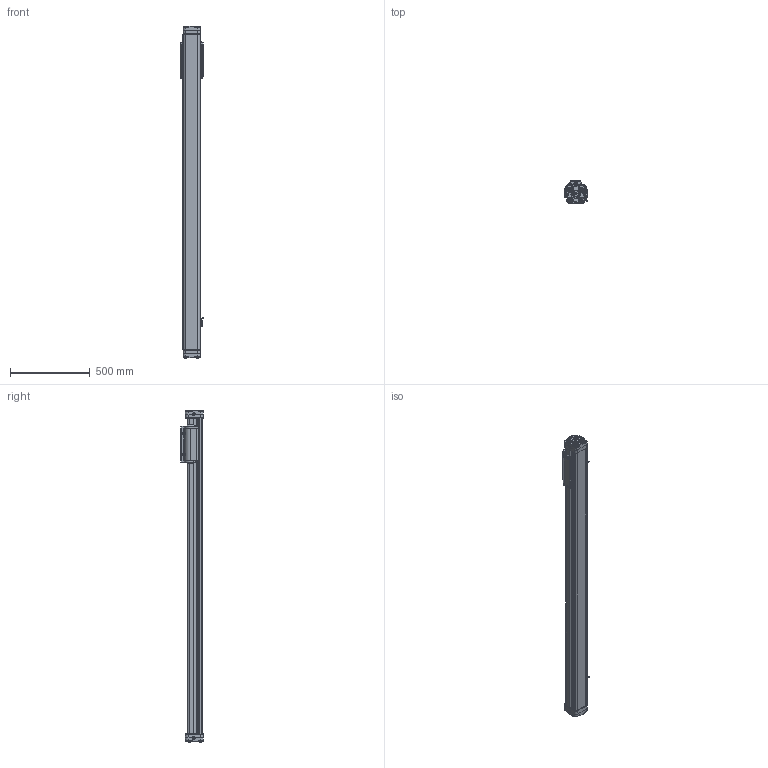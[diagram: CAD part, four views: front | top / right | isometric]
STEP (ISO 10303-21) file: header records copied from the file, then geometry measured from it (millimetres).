
FILE_DESCRIPTION (( 'STEP AP203' ), '1' );
FILE_NAME ('BC225_NP_SK65.000_BC2-479417-1.step', '2025-01-21T13:21:29', ( '' ), ( '' ), 'SwSTEP 2.0', 'SolidWorks 2024', '' );
FILE_SCHEMA (( 'CONFIG_CONTROL_DESIGN' ));
Length unit declared in the file: inch
Products named in the file (4): Base_BC225_NP_SK65.000_BC2-479417-1; BC225_NP_SK65.000_BC2-479417-1; 05259810_BC225_NP_SK65.000_BC2-479417-1; 05259057_BC225_NP_SK65.000_BC2-479417-1
Assembly tree (4 placements, depth 2):
  BC225_NP_SK65.000_BC2-479417-1
    05259057_BC225_NP_SK65.000_BC2-479417-1
    05259810_BC225_NP_SK65.000_BC2-479417-1  x2
    Base_BC225_NP_SK65.000_BC2-479417-1
Bounding box: 145.69 x 139.62 x 2080.46 mm (x, y, z)
Volume: 15992545.7 mm3; surface area: 1584222.9 mm2
Topology: 5 solids, 36 shells, 2140 faces, 5495 edges, 3532 vertices
Faces by surface type: plane 1229, cylinder 468, torus 172, cone 161, bspline 100, sphere 10
Full cylindrical faces by diameter (mm): 2.845 x4, 3.175 x1, 3.437 x2, 5.41 x4, 5.563 x2, 6.02 x2, 6.528 x20, 7.938 x4, 8.331 x2, 8.941 x2, 9.449 x4, 9.525 x6, 10.67 x8, 11.903 x2, 13.894 x2, 14.034 x2, 14.275 x4, 16.662 x4, 19.837 x4, 38.1 x2, 50.902 x2, 56.769 x2, 57.15 x2, 61.468 x3, 63.5 x1
Entity records: 66419 total; most frequent: CARTESIAN_POINT 18534, ORIENTED_EDGE 9710, DIRECTION 9545, EDGE_CURVE 4855, VERTEX_POINT 3217, AXIS2_PLACEMENT_3D 3187, LINE 3171, VECTOR 3171
